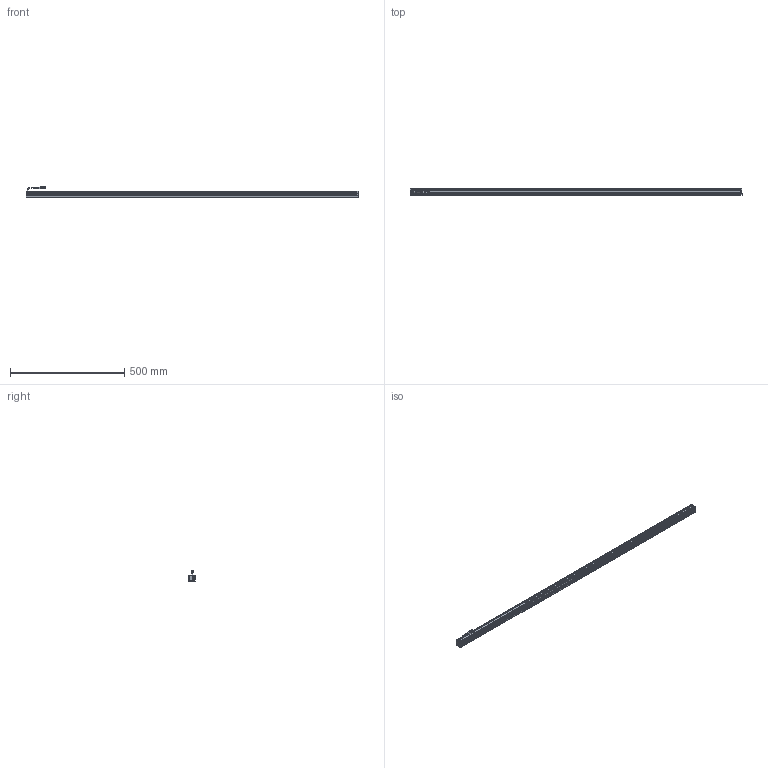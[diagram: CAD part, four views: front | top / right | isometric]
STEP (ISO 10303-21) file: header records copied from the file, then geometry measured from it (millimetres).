
FILE_DESCRIPTION (( 'STEP AP203' ), '1' );
FILE_NAME ('CK-BL145228.STEP', '2026-01-02T09:53:07', ( '' ), ( '' ), 'SwSTEP 2.0', 'SolidWorks 2022', '' );
FILE_SCHEMA (( 'CONFIG_CONTROL_DESIGN' ));
Length unit declared in the file: millimetre
Products named in the file (6): CK-BL145228-001A; 十字沉头螺丝 M2x10; 光源线-01; CK-BL145228-003A; CK-BL145228-002A; CK-BL145228
Assembly tree (11 placements, depth 2):
  CK-BL145228
    CK-BL145228-001A
    CK-BL145228-002A  x2
    CK-BL145228-003A
    光源线-01
    十字沉头螺丝 M2x10  x6
Bounding box: 1452 x 27 x 47.34 mm (x, y, z)
Volume: 461407.9 mm3; surface area: 403463.1 mm2
Topology: 13 solids, 13 shells, 575 faces, 1494 edges, 950 vertices
Faces by surface type: plane 337, cylinder 172, cone 46, bspline 20
Entity records: 13997 total; most frequent: CARTESIAN_POINT 2782, ORIENTED_EDGE 2202, DIRECTION 2163, EDGE_CURVE 1101, LINE 781, VECTOR 781, VERTEX_POINT 714, AXIS2_PLACEMENT_3D 691
